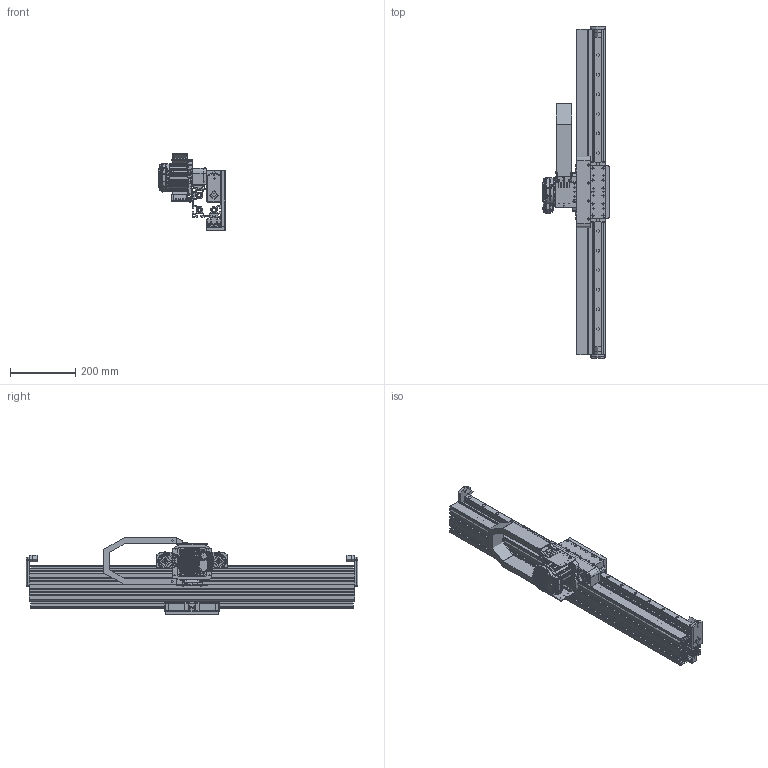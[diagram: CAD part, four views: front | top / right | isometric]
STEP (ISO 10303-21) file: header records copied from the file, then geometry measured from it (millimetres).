
FILE_DESCRIPTION( ( '' ), ' ' );
FILE_NAME( '/vol/tmp/translate-1561650833633927082/5c7ea4f5cb3f0b1ca4a5dc64.step', '2019-03-05T16:34:04', ( '' ), ( '' ), ' ', ' ', ' ' );
FILE_SCHEMA( ( 'AUTOMOTIVE_DESIGN { 1 0 10303 214 1 1 1 1 }' ) );
Length unit declared in the file: metre
Products named in the file (112): RAIL FASTENERS <6>; 102684-001 BOSCH 10mm T-BLOCK M5; 100001-8065 M5-.80 X 25 ALLOY SHCS; 20mm BEARING RAIL CAP; RAIL FASTENERS <16>; RAIL FASTENERS <12>; RAIL FASTENERS <13>; RAIL FASTENERS <15>; TRAY FASTENERS <4>; #9142; #9150; RAIL FASTENERS <10>; TRAY FASTENERS <3>; RAIL FASTENERS <9>; RAIL FASTENERS <17>; RAIL FASTENERS <14>; RAIL FASTENERS <7>; RAIL FASTENERS <3>; RAIL FASTENERS <2>; RAIL FASTENERS <4>; RAIL FASTENERS <1>; TRAY FASTENERS <5>; RAIL FASTENERS <11>; RAIL FASTENERS <8>; RAIL FASTENERS <5>; TRAY FASTENERS <2>; TRAY FASTENERS <1>; RAIL <1>; 106888-001 20mm RAIL COVER; 102732-990 20mm STANDARD GUIDE RAIL; TRAY <1>; 102567-001 T5 X 32mm BELTING; 102610-005 VHB TAPE 1-1/4 WIDE; 102656-1000 SBL-M BELT TRAY; CPM34XX & PINION <1>; GENERIC CPM 342X; 100013-008 M4 X 6 SS SET SCREW; 102695-001 SERVOBELT PINION GEAR 15T .500 BORE; 104587-001 SBL-M DYNAMIC BEARING ASSEMBLY <2>; 103126-001 SBL-M BEARING SHAFT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
Assembly tree (295 placements, depth 5):
  Assem1
    100001-086 M8-1.25 X 20 SS SHCS  x4
    102977-001 LINKS
    107370-001 SBL-M 90S GANTRY STAGE PLATE
    1000 CHASSIS <1>
      102915-1000  90-SERIES PROFILE 90X90
      RAIL <1>
        106888-001 20mm RAIL COVER
        102732-990 20mm STANDARD GUIDE RAIL
        RAIL FASTENERS <12>
          100001-8065 M5-.80 X 25 ALLOY SHCS
          102684-001 BOSCH 10mm T-BLOCK M5
          20mm BEARING RAIL CAP
        RAIL FASTENERS <9>
          102684-001 BOSCH 10mm T-BLOCK M5
          100001-8065 M5-.80 X 25 ALLOY SHCS
          20mm BEARING RAIL CAP
        RAIL FASTENERS <3>
          20mm BEARING RAIL CAP
          102684-001 BOSCH 10mm T-BLOCK M5
          100001-8065 M5-.80 X 25 ALLOY SHCS
        RAIL FASTENERS <7>
          102684-001 BOSCH 10mm T-BLOCK M5
          20mm BEARING RAIL CAP
          100001-8065 M5-.80 X 25 ALLOY SHCS
        RAIL FASTENERS <13>
          102684-001 BOSCH 10mm T-BLOCK M5
          100001-8065 M5-.80 X 25 ALLOY SHCS
          20mm BEARING RAIL CAP
        RAIL FASTENERS <5>
          102684-001 BOSCH 10mm T-BLOCK M5
          100001-8065 M5-.80 X 25 ALLOY SHCS
          20mm BEARING RAIL CAP
        RAIL FASTENERS <6>
          100001-8065 M5-.80 X 25 ALLOY SHCS
          102684-001 BOSCH 10mm T-BLOCK M5
          20mm BEARING RAIL CAP
        RAIL FASTENERS <14>
          100001-8065 M5-.80 X 25 ALLOY SHCS
          102684-001 BOSCH 10mm T-BLOCK M5
          20mm BEARING RAIL CAP
        RAIL FASTENERS <2>
          20mm BEARING RAIL CAP
          100001-8065 M5-.80 X 25 ALLOY SHCS
          102684-001 BOSCH 10mm T-BLOCK M5
        RAIL FASTENERS <17>
          102684-001 BOSCH 10mm T-BLOCK M5
          20mm BEARING RAIL CAP
          100001-8065 M5-.80 X 25 ALLOY SHCS
        RAIL FASTENERS <11>
          100001-8065 M5-.80 X 25 ALLOY SHCS
          20mm BEARING RAIL CAP
          102684-001 BOSCH 10mm T-BLOCK M5
        RAIL FASTENERS <10>
          100001-8065 M5-.80 X 25 ALLOY SHCS
          102684-001 BOSCH 10mm T-BLOCK M5
          20mm BEARING RAIL CAP
        RAIL FASTENERS <16>
          100001-8065 M5-.80 X 25 ALLOY SHCS
          20mm BEARING RAIL CAP
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Bounding box: 204.62 x 1019.05 x 235.47 mm (x, y, z)
Topology: 265 solids, 270 shells, 10435 faces, 26572 edges, 16896 vertices
Faces by surface type: plane 4572, cylinder 2879, bspline 1034, torus 929, cone 825, sphere 154, extrusion 40, revolution 2
Full cylindrical faces by diameter (mm): 0.152 x1, 2.2 x31, 2.261 x25, 2.44 x25, 2.47 x4, 2.5 x32, 2.6 x8, 2.66 x8, 2.997 x4, 3 x12, 3.175 x1, 3.184 x1, 3.2 x4, 3.3 x9, 3.4 x2, 3.454 x5, 4 x6, 4.166 x5, 4.2 x13, 4.216 x16, 4.5 x7, 4.8 x4, 5 x74, 5.004 x60, 5.105 x2, 5.156 x5, 5.284 x1, 5.5 x60, 5.563 x12, 5.6 x4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
Entity records: 378538 total; most frequent: CARTESIAN_POINT 143876, ORIENTED_EDGE 35932, DIRECTION 35674, EDGE_CURVE 17966, AXIS2_PLACEMENT_3D 14056, VERTEX_POINT 11922, EDGE_LOOP 9120, FACE_OUTER_BOUND 8250
